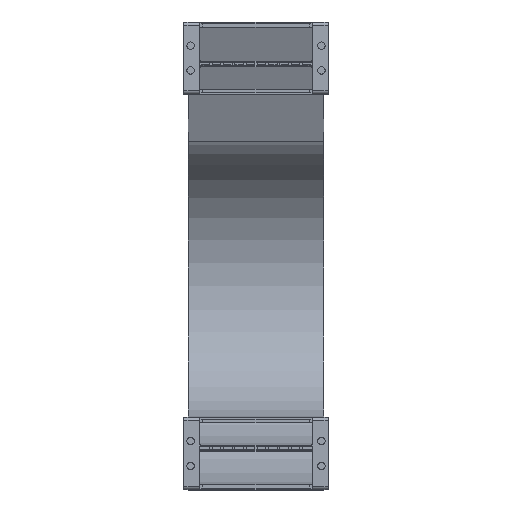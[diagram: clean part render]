
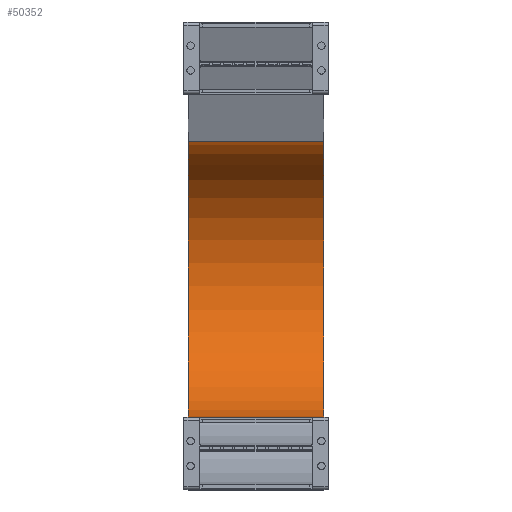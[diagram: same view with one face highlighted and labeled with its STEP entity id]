
A CAD part, top view. The second image highlights one B-rep face of the part: STEP entity #50352.
In plain terms, the highlighted cylindrical face has radius 123 mm (diameter 246 mm), a partial arc.
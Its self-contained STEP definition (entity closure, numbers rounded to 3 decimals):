
#49504=DIRECTION('',(-1.,0.,0.));
#49505=VECTOR('',#49504,120.);
#49506=CARTESIAN_POINT('',(60.,64.,-500.));
#49507=LINE('',#49506,#49505);
#49518=DIRECTION('',(-1.,0.,0.));
#49519=VECTOR('',#49518,120.);
#49520=CARTESIAN_POINT('',(60.,309.382,-512.314));
#49521=LINE('',#49520,#49519);
#49525=CARTESIAN_POINT('',(60.,187.,-500.));
#49526=DIRECTION('',(-1.,0.,0.));
#49527=DIRECTION('',(0.,0.995,-0.1));
#49528=AXIS2_PLACEMENT_3D('',#49525,#49526,#49527);
#49604=CARTESIAN_POINT('',(-60.,187.,-500.));
#49605=DIRECTION('',(-1.,0.,0.));
#49606=DIRECTION('',(0.,0.995,-0.1));
#49607=AXIS2_PLACEMENT_3D('',#49604,#49605,#49606);
#49726=CARTESIAN_POINT('',(60.,309.382,-512.314));
#49727=CARTESIAN_POINT('',(-60.,309.382,-512.314));
#49728=VERTEX_POINT('',#49726);
#49729=VERTEX_POINT('',#49727);
#49750=CARTESIAN_POINT('',(60.,64.,-500.));
#49751=CARTESIAN_POINT('',(-60.,64.,-500.));
#49752=VERTEX_POINT('',#49750);
#49753=VERTEX_POINT('',#49751);
#50338=CARTESIAN_POINT('',(1.,187.,-500.));
#50339=DIRECTION('',(-1.,0.,0.));
#50340=DIRECTION('',(0.,-0.995,0.1));
#50341=AXIS2_PLACEMENT_3D('',#50338,#50339,#50340);
#50342=CYLINDRICAL_SURFACE('',#50341,123.);
#50344=ORIENTED_EDGE('',*,*,#50343,.F.);
#50346=ORIENTED_EDGE('',*,*,#50345,.T.);
#50347=ORIENTED_EDGE('',*,*,#50321,.T.);
#50349=ORIENTED_EDGE('',*,*,#50348,.F.);
#50350=EDGE_LOOP('',(#50344,#50346,#50347,#50349));
#50351=FACE_OUTER_BOUND('',#50350,.F.);
#49529=CIRCLE('',#49528,123.);
#49608=CIRCLE('',#49607,123.);
#50321=EDGE_CURVE('',#49752,#49753,#49507,.T.);
#50343=EDGE_CURVE('',#49728,#49729,#49521,.T.);
#50345=EDGE_CURVE('',#49728,#49752,#49529,.T.);
#50348=EDGE_CURVE('',#49729,#49753,#49608,.T.);
#50352=ADVANCED_FACE('',(#50351),#50342,.F.);
